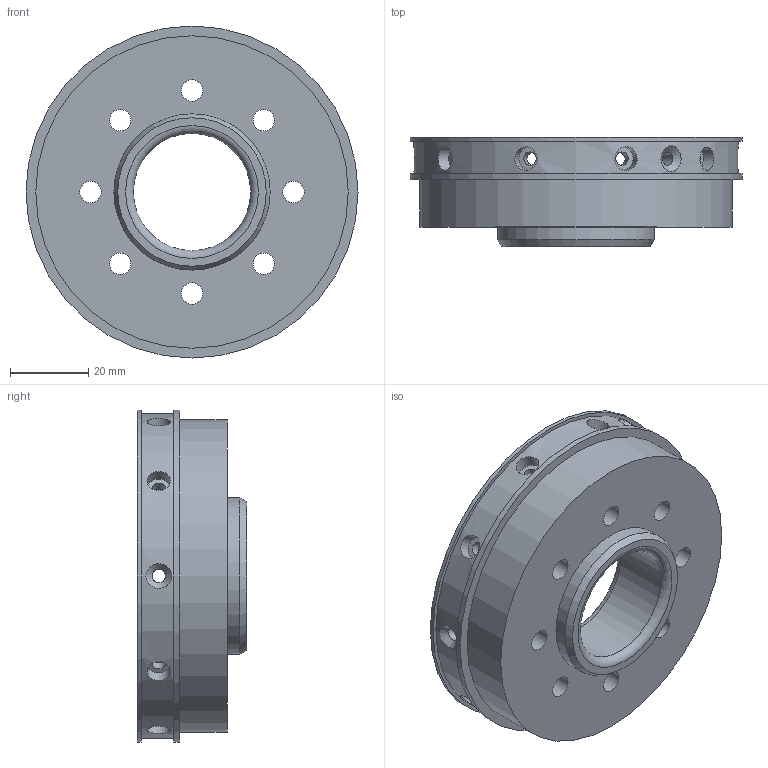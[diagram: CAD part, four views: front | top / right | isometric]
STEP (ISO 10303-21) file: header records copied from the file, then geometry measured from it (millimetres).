
FILE_DESCRIPTION (( 'STEP AP214' ), '1' );
FILE_NAME ('2-054-003 3kg三轴转接2.STEP', '2026-05-21T03:40:04', ( 'Windows User' ), ( 'P R C' ), 'SwSTEP 2.0', 'SolidWorks 2021', '' );
FILE_SCHEMA (( 'AUTOMOTIVE_DESIGN' ));
Length unit declared in the file: millimetre
Products named in the file (1): 2-054-003 3kg三轴转接2
Bounding box: 85 x 28 x 85 mm (x, y, z)
Volume: 69390.6 mm3; surface area: 23501.9 mm2
Topology: 1 solids, 1 shells, 74 faces, 157 edges, 107 vertices
Faces by surface type: cylinder 44, plane 24, cone 4, torus 2
Full cylindrical faces by diameter (mm): 3.4 x12, 5.5 x8, 6 x9, 10 x8, 30 x1, 40 x1, 71 x1, 80 x1, 83 x1, 85 x2
Entity records: 3195 total; most frequent: CARTESIAN_POINT 1629, DIRECTION 290, EDGE_LOOP 188, ORIENTED_EDGE 188, AXIS2_PLACEMENT_3D 145, FACE_OUTER_BOUND 120, EDGE_CURVE 94, VERTEX_POINT 94
